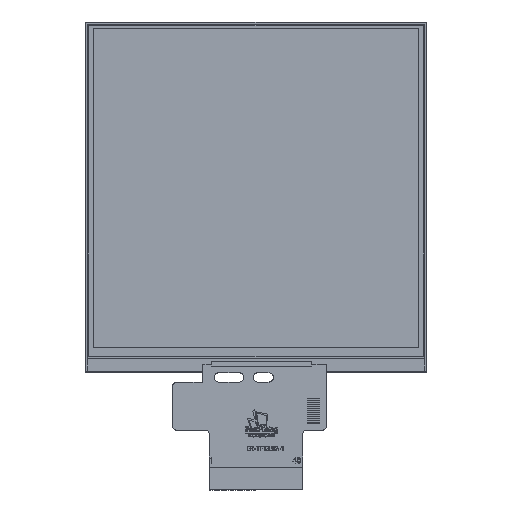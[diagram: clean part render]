
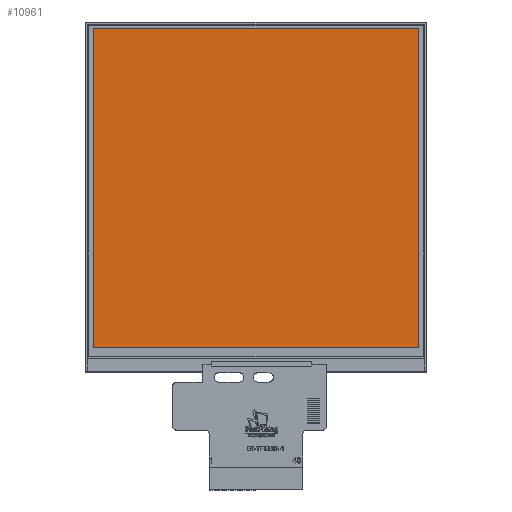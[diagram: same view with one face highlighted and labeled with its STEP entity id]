
A CAD part, top view. The second image highlights one B-rep face of the part: STEP entity #10961.
In plain terms, the highlighted planar face has unit normal (0, 0, 1).
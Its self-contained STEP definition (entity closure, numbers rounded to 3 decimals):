
#1000 = CARTESIAN_POINT ( 'NONE',  ( 0., 0., 2.04 ) ) ;
#3712 = LINE ( 'NONE', #30754, #9464 ) ;
#6705 = FACE_OUTER_BOUND ( 'NONE', #7873, .T. ) ;
#7750 = PLANE ( 'NONE',  #34616 ) ;
#7873 = EDGE_LOOP ( 'NONE', ( #26955, #32897, #24259, #8741 ) ) ;
#8741 = ORIENTED_EDGE ( 'NONE', *, *, #29508, .F. ) ;
#9464 = VECTOR ( 'NONE', #34564, 1000. ) ;
#9947 = CARTESIAN_POINT ( 'NONE',  ( 35.57, 36.87, 2.04 ) ) ;
#10117 = DIRECTION ( 'NONE',  ( 1., 0., 0. ) ) ;
#10961 = ADVANCED_FACE ( 'NONE', ( #6705 ), #7750, .T. ) ;
#12884 = VERTEX_POINT ( 'NONE', #16123 ) ;
#13231 = VERTEX_POINT ( 'NONE', #25716 ) ;
#14037 = EDGE_CURVE ( 'NONE', #19674, #30383, #3712, .T. ) ;
#15738 = VECTOR ( 'NONE', #20485, 1000. ) ;
#16123 = CARTESIAN_POINT ( 'NONE',  ( -35.57, -32.95, 2.04 ) ) ;
#16777 = EDGE_CURVE ( 'NONE', #30383, #12884, #19804, .T. ) ;
#19250 = EDGE_CURVE ( 'NONE', #12884, #13231, #31661, .T. ) ;
#19674 = VERTEX_POINT ( 'NONE', #9947 ) ;
#19804 = LINE ( 'NONE', #30129, #35308 ) ;
#20485 = DIRECTION ( 'NONE',  ( 0., 1., 0. ) ) ;
#23586 = DIRECTION ( 'NONE',  ( 1., 0., 0. ) ) ;
#24259 = ORIENTED_EDGE ( 'NONE', *, *, #14037, .F. ) ;
#25716 = CARTESIAN_POINT ( 'NONE',  ( -35.57, 36.87, 2.04 ) ) ;
#26955 = ORIENTED_EDGE ( 'NONE', *, *, #19250, .F. ) ;
#29508 = EDGE_CURVE ( 'NONE', #13231, #19674, #33768, .T. ) ;
#30129 = CARTESIAN_POINT ( 'NONE',  ( 0., -32.95, 2.04 ) ) ;
#30383 = VERTEX_POINT ( 'NONE', #36103 ) ;
#30465 = VECTOR ( 'NONE', #10117, 1000. ) ;
#30754 = CARTESIAN_POINT ( 'NONE',  ( 35.57, 0., 2.04 ) ) ;
#31661 = LINE ( 'NONE', #42021, #15738 ) ;
#32897 = ORIENTED_EDGE ( 'NONE', *, *, #16777, .F. ) ;
#33768 = LINE ( 'NONE', #40321, #30465 ) ;
#34564 = DIRECTION ( 'NONE',  ( 0., -1., 0. ) ) ;
#34616 = AXIS2_PLACEMENT_3D ( 'NONE', #1000, #44128, #23586 ) ;
#35308 = VECTOR ( 'NONE', #43882, 1000. ) ;
#36103 = CARTESIAN_POINT ( 'NONE',  ( 35.57, -32.95, 2.04 ) ) ;
#40321 = CARTESIAN_POINT ( 'NONE',  ( 0., 36.87, 2.04 ) ) ;
#42021 = CARTESIAN_POINT ( 'NONE',  ( -35.57, 0., 2.04 ) ) ;
#43882 = DIRECTION ( 'NONE',  ( -1., 0., 0. ) ) ;
#44128 = DIRECTION ( 'NONE',  ( 0., 0., 1. ) ) ;
